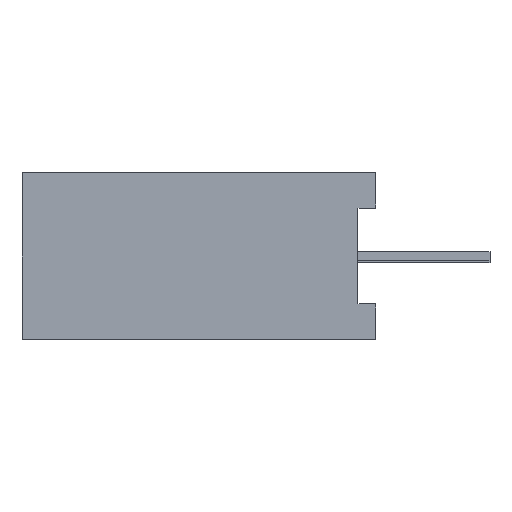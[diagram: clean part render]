
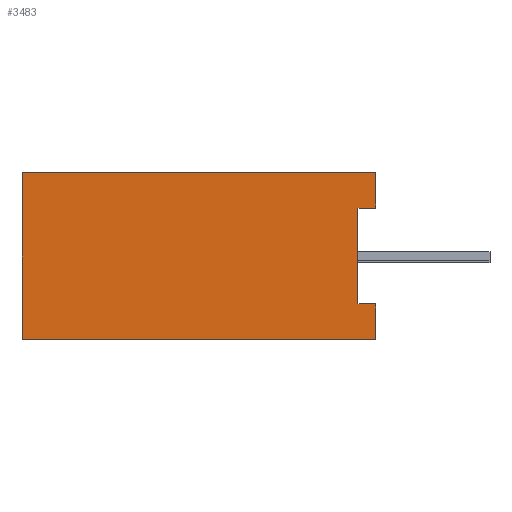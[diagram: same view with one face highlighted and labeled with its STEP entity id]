
A CAD part, left-side view. The second image highlights one B-rep face of the part: STEP entity #3483.
In plain terms, the highlighted planar face has unit normal (-1, 0, 0).
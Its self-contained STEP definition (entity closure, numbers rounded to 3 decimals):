
#3363 = EDGE_CURVE ( 'NONE', #3364, #3383, #19037, .T. ) ;
#3364 = VERTEX_POINT ( 'NONE', #19033 ) ;
#3370 = VERTEX_POINT ( 'NONE', #19022 ) ;
#3380 = VERTEX_POINT ( 'NONE', #19067 ) ;
#3382 = EDGE_CURVE ( 'NONE', #3383, #3380, #19066, .T. ) ;
#3383 = VERTEX_POINT ( 'NONE', #19062 ) ;
#3402 = EDGE_LOOP ( 'NONE', ( #3403, #3404, #3407, #3410, #3469, #3470, #3471, #3472 ) ) ;
#3403 = ORIENTED_EDGE ( 'NONE', *, *, #3382, .T. ) ;
#3404 = ORIENTED_EDGE ( 'NONE', *, *, #3405, .F. ) ;
#3405 = EDGE_CURVE ( 'NONE', #3406, #3380, #19081, .T. ) ;
#3406 = VERTEX_POINT ( 'NONE', #19144 ) ;
#3407 = ORIENTED_EDGE ( 'NONE', *, *, #3408, .F. ) ;
#3408 = EDGE_CURVE ( 'NONE', #3409, #3406, #19143, .T. ) ;
#3409 = VERTEX_POINT ( 'NONE', #19139 ) ;
#3410 = ORIENTED_EDGE ( 'NONE', *, *, #3411, .F. ) ;
#3411 = EDGE_CURVE ( 'NONE', #3370, #3409, #19138, .T. ) ;
#3414 = VERTEX_POINT ( 'NONE', #19130 ) ;
#3416 = EDGE_CURVE ( 'NONE', #3425, #3414, #19129, .T. ) ;
#3424 = EDGE_CURVE ( 'NONE', #3370, #3425, #19115, .T. ) ;
#3425 = VERTEX_POINT ( 'NONE', #19174 ) ;
#3469 = ORIENTED_EDGE ( 'NONE', *, *, #3424, .T. ) ;
#3470 = ORIENTED_EDGE ( 'NONE', *, *, #3416, .T. ) ;
#3471 = ORIENTED_EDGE ( 'NONE', *, *, #3481, .T. ) ;
#3472 = ORIENTED_EDGE ( 'NONE', *, *, #3363, .T. ) ;
#3481 = EDGE_CURVE ( 'NONE', #3414, #3364, #19220, .T. ) ;
#3483 = ADVANCED_FACE ( 'NONE', ( #19216 ), #19215, .F. ) ;
#19022 = CARTESIAN_POINT ( 'NONE',  ( -12.05, -0.508, 1.384 ) ) ;
#19033 = CARTESIAN_POINT ( 'NONE',  ( -12.05, 9.692, -2.4 ) ) ;
#19034 = DIRECTION ( 'NONE',  ( 0., -1., 0. ) ) ;
#19035 = VECTOR ( 'NONE', #19034, 1000. ) ;
#19036 = CARTESIAN_POINT ( 'NONE',  ( -12.05, -0.508, -2.4 ) ) ;
#19037 = LINE ( 'NONE', #19036, #19035 ) ;
#19062 = CARTESIAN_POINT ( 'NONE',  ( -12.05, -0.508, -2.4 ) ) ;
#19063 = DIRECTION ( 'NONE',  ( 0., 0., 1. ) ) ;
#19064 = VECTOR ( 'NONE', #19063, 1000. ) ;
#19065 = CARTESIAN_POINT ( 'NONE',  ( -12.05, -0.508, 2.4 ) ) ;
#19066 = LINE ( 'NONE', #19065, #19064 ) ;
#19067 = CARTESIAN_POINT ( 'NONE',  ( -12.05, -0.508, -1.384 ) ) ;
#19078 = DIRECTION ( 'NONE',  ( 0., -1., 0. ) ) ;
#19079 = VECTOR ( 'NONE', #19078, 1000. ) ;
#19080 = CARTESIAN_POINT ( 'NONE',  ( -12.05, -0.508, -1.384 ) ) ;
#19081 = LINE ( 'NONE', #19080, #19079 ) ;
#19113 = VECTOR ( 'NONE', #19175, 1000. ) ;
#19114 = CARTESIAN_POINT ( 'NONE',  ( -12.05, -0.508, 2.4 ) ) ;
#19115 = LINE ( 'NONE', #19114, #19113 ) ;
#19126 = DIRECTION ( 'NONE',  ( 0., 1., 0. ) ) ;
#19127 = VECTOR ( 'NONE', #19126, 1000. ) ;
#19128 = CARTESIAN_POINT ( 'NONE',  ( -12.05, 9.692, 2.4 ) ) ;
#19129 = LINE ( 'NONE', #19128, #19127 ) ;
#19130 = CARTESIAN_POINT ( 'NONE',  ( -12.05, 9.692, 2.4 ) ) ;
#19135 = DIRECTION ( 'NONE',  ( 0., 1., 0. ) ) ;
#19136 = VECTOR ( 'NONE', #19135, 1000. ) ;
#19137 = CARTESIAN_POINT ( 'NONE',  ( -12.05, -0.508, 1.384 ) ) ;
#19138 = LINE ( 'NONE', #19137, #19136 ) ;
#19139 = CARTESIAN_POINT ( 'NONE',  ( -12.05, 0., 1.384 ) ) ;
#19140 = DIRECTION ( 'NONE',  ( 0., 0., -1. ) ) ;
#19141 = VECTOR ( 'NONE', #19140, 1000. ) ;
#19142 = CARTESIAN_POINT ( 'NONE',  ( -12.05, 0., -1.384 ) ) ;
#19143 = LINE ( 'NONE', #19142, #19141 ) ;
#19144 = CARTESIAN_POINT ( 'NONE',  ( -12.05, 0., -1.384 ) ) ;
#19174 = CARTESIAN_POINT ( 'NONE',  ( -12.05, -0.508, 2.4 ) ) ;
#19175 = DIRECTION ( 'NONE',  ( 0., 0., 1. ) ) ;
#19210 = DIRECTION ( 'NONE',  ( 0., 0., -1. ) ) ;
#19211 = DIRECTION ( 'NONE',  ( 1., 0., 0. ) ) ;
#19212 = CARTESIAN_POINT ( 'NONE',  ( -12.05, 9.692, -2.4 ) ) ;
#19214 = AXIS2_PLACEMENT_3D ( 'NONE', #19212, #19211, #19210 ) ;
#19215 = PLANE ( 'NONE',  #19214 ) ;
#19216 = FACE_OUTER_BOUND ( 'NONE', #3402, .T. ) ;
#19217 = DIRECTION ( 'NONE',  ( 0., 0., -1. ) ) ;
#19218 = VECTOR ( 'NONE', #19217, 1000. ) ;
#19219 = CARTESIAN_POINT ( 'NONE',  ( -12.05, 9.692, -2.4 ) ) ;
#19220 = LINE ( 'NONE', #19219, #19218 ) ;
